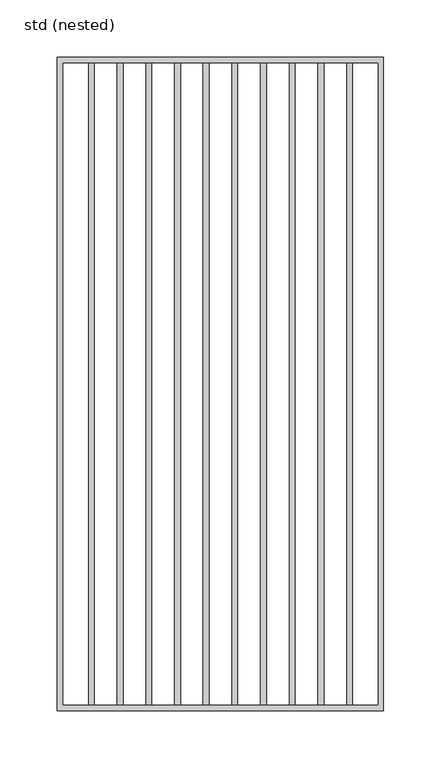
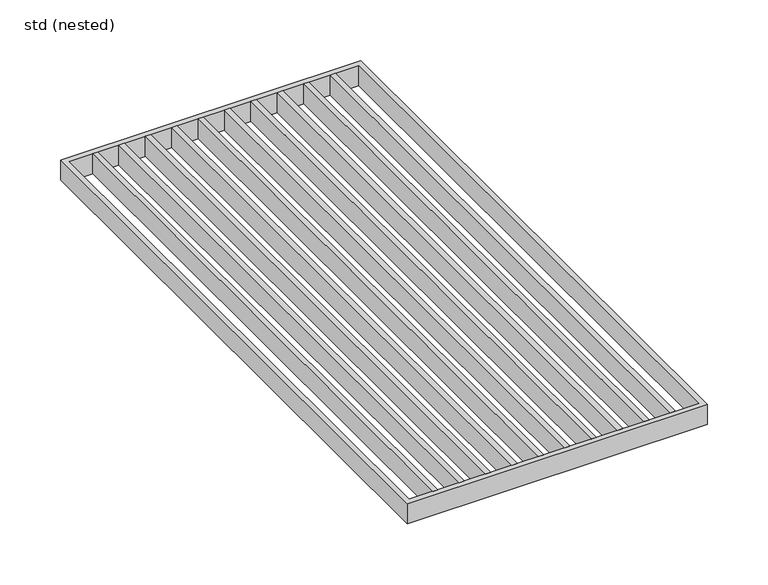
"""IFC4 building model written with IfcOpenShell, lengths in millimetres: sanitary terminal geometry, ZZZ_do not use_PF_ST_UN_grating for high capacity gully_ACO : std (nested)."""

from ifc_helpers import new_model, si_unit, frame, origin, place, context, project, spatial, polyline, outline, extrude, source, transform, mapped, element, save


def std_nested_3aef32b5(model_context):
    return source(origin(), model_context, "Body", "SweptSolid", [
        extrude(outline(polyline([(-115.0, 279.0), (-110.0, 279.0), (-110.0, -279.0), (-115.0, -279.0), (-115.0, 279.0)])), frame((0.0, 0.0, -20.0), z_axis=(0.0, 0.0, 1.0), x_axis=(1.0, 0.0, 0.0)), (0.0, 0.0, 1.0), 20.0),
        extrude(outline(polyline([(-90.0, 279.0), (-85.0, 279.0), (-85.0, -279.0), (-90.0, -279.0), (-90.0, 279.0)])), frame((0.0, 0.0, -20.0), z_axis=(0.0, 0.0, 1.0), x_axis=(1.0, 0.0, 0.0)), (0.0, 0.0, 1.0), 20.0),
        extrude(outline(polyline([(-65.0, 279.0), (-60.0, 279.0), (-60.0, -279.0), (-65.0, -279.0), (-65.0, 279.0)])), frame((0.0, 0.0, -20.0), z_axis=(0.0, 0.0, 1.0), x_axis=(1.0, 0.0, 0.0)), (0.0, 0.0, 1.0), 20.0),
        extrude(outline(polyline([(-40.0, 279.0), (-35.0, 279.0), (-35.0, -279.0), (-40.0, -279.0), (-40.0, 279.0)])), frame((0.0, 0.0, -20.0), z_axis=(0.0, 0.0, 1.0), x_axis=(1.0, 0.0, 0.0)), (0.0, 0.0, 1.0), 20.0),
        extrude(outline(polyline([(115.0, 279.0), (115.0, -279.0), (110.0, -279.0), (110.0, 279.0), (115.0, 279.0)])), frame((0.0, 0.0, -20.0), z_axis=(0.0, 0.0, 1.0), x_axis=(1.0, 0.0, 0.0)), (0.0, 0.0, 1.0), 20.0),
        extrude(outline(polyline([(90.0, 279.0), (90.0, -279.0), (85.0, -279.0), (85.0, 279.0), (90.0, 279.0)])), frame((0.0, 0.0, -20.0), z_axis=(0.0, 0.0, 1.0), x_axis=(1.0, 0.0, 0.0)), (0.0, 0.0, 1.0), 20.0),
        extrude(outline(polyline([(65.0, 279.0), (65.0, -279.0), (60.0, -279.0), (60.0, 279.0), (65.0, 279.0)])), frame((0.0, 0.0, -20.0), z_axis=(0.0, 0.0, 1.0), x_axis=(1.0, 0.0, 0.0)), (0.0, 0.0, 1.0), 20.0),
        extrude(outline(polyline([(40.0, 279.0), (40.0, -279.0), (35.0, -279.0), (35.0, 279.0), (40.0, 279.0)])), frame((0.0, 0.0, -20.0), z_axis=(0.0, 0.0, 1.0), x_axis=(1.0, 0.0, 0.0)), (0.0, 0.0, 1.0), 20.0),
        extrude(outline(polyline([(-15.0, 279.0), (-10.0, 279.0), (-10.0, -279.0), (-15.0, -279.0), (-15.0, 279.0)])), frame((0.0, 0.0, -20.0), z_axis=(0.0, 0.0, 1.0), x_axis=(1.0, 0.0, 0.0)), (0.0, 0.0, 1.0), 20.0),
        extrude(outline(polyline([(15.0, 279.0), (15.0, -279.0), (10.0, -279.0), (10.0, 279.0), (15.0, 279.0)])), frame((0.0, 0.0, -20.0), z_axis=(0.0, 0.0, 1.0), x_axis=(1.0, 0.0, 0.0)), (0.0, 0.0, 1.0), 20.0),
        extrude(outline(polyline([(142.0, 284.0), (142.0, -284.0), (-142.0, -284.0), (-142.0, 284.0), (142.0, 284.0)]), holes=[polyline([(137.0, 279.0), (-137.0, 279.0), (-137.0, -279.0), (137.0, -279.0), (137.0, 279.0)])]), frame((0.0, 0.0, -20.0), z_axis=(0.0, 0.0, 1.0), x_axis=(1.0, 0.0, 0.0)), (0.0, 0.0, 1.0), 20.0),
    ])


if __name__ == "__main__":
    model = new_model("IFC4")
    model_context = context("Model", 3, world=origin())
    ifc_project = project(units=[si_unit("LENGTHUNIT", "METRE", prefix="MILLI")], contexts=[model_context])
    site = spatial("IfcSite", under=ifc_project)
    building = spatial("IfcBuilding", under=site)
    placement = place(None, origin())
    std_nested_shape = std_nested_3aef32b5(model_context)
    element("IfcSanitaryTerminal", 1, ObjectType="ZZZ_do not use_PF_ST_UN_grating for high capacity gully_ACO : std (nested)", at=placement, inside=building, context=model_context, shape_type="MappedRepresentation", body=[
        mapped(std_nested_shape, transform((0.0, 0.0, 0.0), x_axis=(1.0, 0.0, 0.0), y_axis=(0.0, 1.0, 0.0), z_axis=(0.0, 0.0, 1.0))),
    ])
    save(model, "model.ifc")
